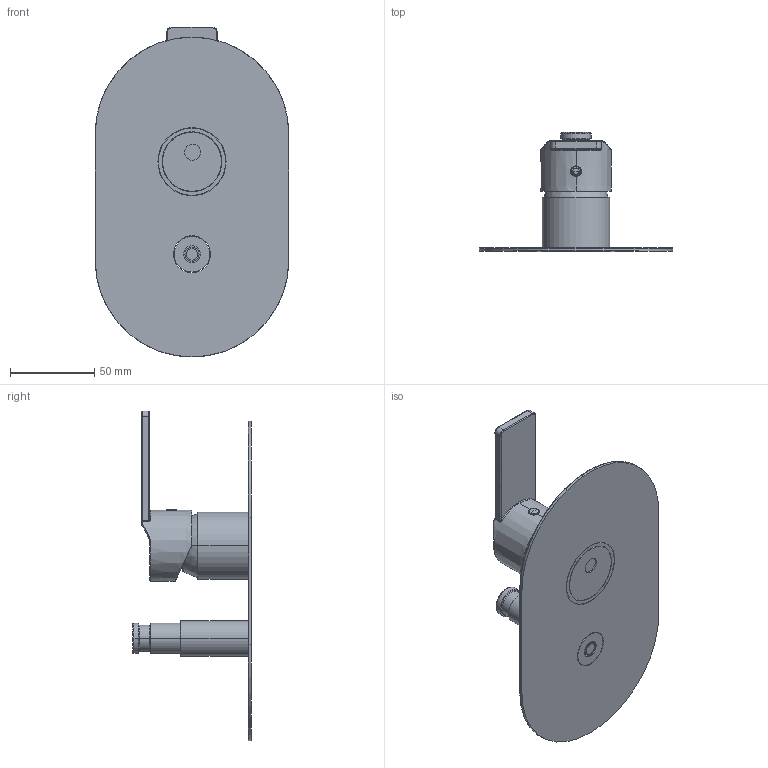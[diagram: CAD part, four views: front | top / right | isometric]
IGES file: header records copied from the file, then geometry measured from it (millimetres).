
Start section:  PTC IGES file: 3d_sw0001.igs
Global section: file name: 3d_sw0001.igs; native system: Creo Parametric by PTC Inc.; preprocessor: 2022014; author: volponeff; organization: Unknown; date: 20240314.134024; units: millimetre
Bounding box: 115 x 70.6 x 196 mm (x, y, z)
Surface area: 79854.6 mm2 (no closed solid volume)
Topology: 0 solids, 0 shells, 446 faces, 2178 edges, 2174 vertices
Faces by surface type: revolution 293, bspline 153
